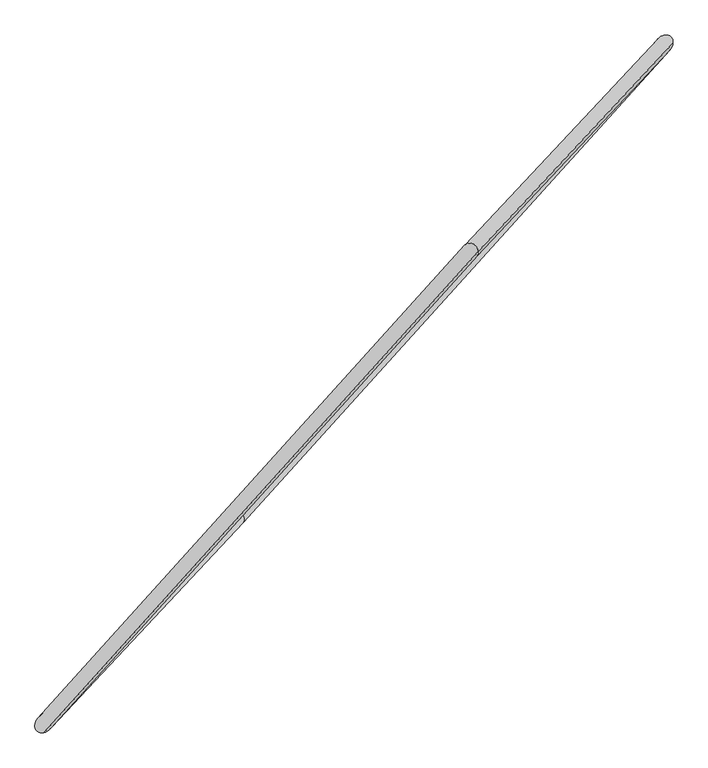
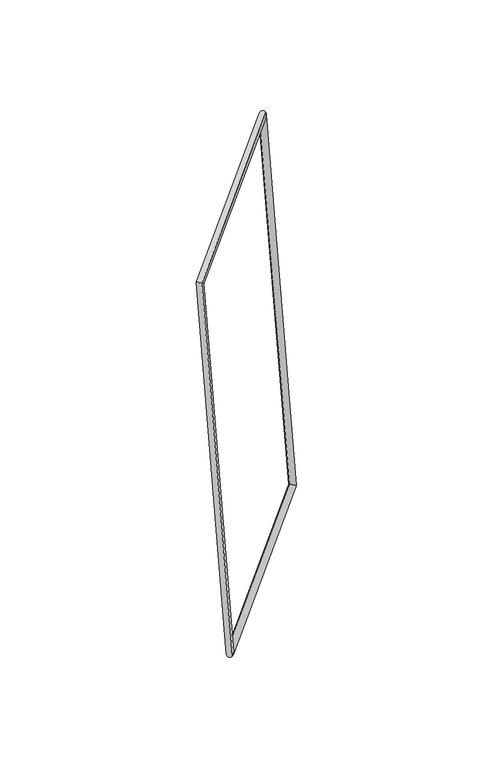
"""IFC4 building model written with IfcOpenShell, lengths in millimetres: proxy geometry, Família5 : Família5."""

from ifc_helpers import new_model, si_unit, frame, origin, place, context, project, spatial, ellipse_curve, source, transform, mapped, element, save
from ifc_brep_helpers import cylinder_surface, advanced_brep


def generic_models_5849164f(model_context):
    return source(origin(), model_context, "Body", "AdvancedBrep", [
        advanced_brep(
        [(-1444.87794, -1499.4701956, 27.9836729), (-1439.727336, -1408.4856457, -27.9836729), (606.4312342, 856.9041999, -27.9836729), (678.1740418, 851.0516414, 27.9836729), (1538.2383753, 1852.5524909, -5608.4495105), (1628.5887726, 1866.5823888, -5663.9204806), (-507.9201949, -412.8373547, -5608.4495105), (-494.4632092, -483.9394482, -5663.9204806)],
        [
            (0, 1, ellipse_curve(frame((-1442.302638, -1453.9779206, 0.0), z_axis=(0.41139046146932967, 0.46054143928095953, 0.7865490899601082), x_axis=(-0.5291992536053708, -0.5819160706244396, 0.6175126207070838)), 64.7753986, 40.0)),
            (1, 2),
            (2, 3, ellipse_curve(frame((642.302638, 853.9779206, 0.0), z_axis=(-0.5291992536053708, -0.5819160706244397, 0.6175126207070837), x_axis=(-0.41139046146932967, -0.4605414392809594, -0.7865490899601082)), 50.8545832, 40.0)),
            (3, 0),
            (1, 0, ellipse_curve(frame((-1442.302638, -1453.9779206, 0.0), z_axis=(0.41139046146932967, 0.46054143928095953, 0.7865490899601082), x_axis=(-0.5291992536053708, -0.5819160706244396, 0.6175126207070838)), 64.7753986, 40.0)),
            (3, 2, ellipse_curve(frame((642.302638, 853.9779206, 0.0), z_axis=(-0.5291992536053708, -0.5819160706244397, 0.6175126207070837), x_axis=(-0.41139046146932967, -0.4605414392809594, -0.7865490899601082)), 50.8545832, 40.0)),
            (2, 4),
            (4, 5, ellipse_curve(frame((1583.413574, 1859.5674399, -5636.1849955), z_axis=(0.41139046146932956, 0.46054143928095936, 0.7865490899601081), x_axis=(-0.5291992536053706, -0.5819160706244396, 0.617512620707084)), 64.7753986, 40.0)),
            (5, 3),
            (5, 4, ellipse_curve(frame((1583.413574, 1859.5674399, -5636.1849955), z_axis=(0.41139046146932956, 0.46054143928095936, 0.7865490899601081), x_axis=(-0.5291992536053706, -0.5819160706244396, 0.617512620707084)), 64.7753986, 40.0)),
            (4, 6),
            (6, 7, ellipse_curve(frame((-501.191702, -448.3884014, -5636.1849955), z_axis=(0.5291992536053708, 0.5819160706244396, -0.6175126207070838), x_axis=(0.41139046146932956, 0.4605414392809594, 0.7865490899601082)), 50.8545832, 40.0)),
            (7, 5),
            (7, 6, ellipse_curve(frame((-501.191702, -448.3884014, -5636.1849955), z_axis=(0.5291992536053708, 0.5819160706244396, -0.6175126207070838), x_axis=(0.41139046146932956, 0.4605414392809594, 0.7865490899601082)), 50.8545832, 40.0)),
            (6, 1),
            (0, 7),
        ],
        [
            cylinder_surface(frame((-1442.302638, -1453.9779206, 0.0), z_axis=(-0.67028625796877, -0.7421026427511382, 0.0), x_axis=(-0.5191689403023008, 0.4689267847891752, 0.7145427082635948)), 40.0),
            cylinder_surface(frame((642.302638, 853.9779206, 0.0), z_axis=(-0.16220390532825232, -0.17331702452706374, 0.9714170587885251), x_axis=(-0.050185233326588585, 0.9846288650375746, 0.16729447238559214)), 40.0),
            cylinder_surface(frame((1583.413574, 1859.5674399, -5636.1849955), z_axis=(0.6702862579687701, 0.7421026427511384, 0.0), x_axis=(-0.514564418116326, 0.46476786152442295, -0.7205652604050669)), 40.0),
            cylinder_surface(frame((-501.191702, -448.3884014, -5636.1849955), z_axis=(0.1622039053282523, 0.17331702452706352, -0.971417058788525), x_axis=(-0.9835481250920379, -0.050934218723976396, -0.17331702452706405)), 40.0),
        ],
        [
            (0, [[1, 2, 3, 4]]),
            (0, [[5, -4, 6, -2]]),
            (1, [[-3, 7, 8, 9]]),
            (1, [[-6, -9, 10, -7]]),
            (2, [[-8, 11, 12, 13]]),
            (2, [[-10, -13, 14, -11]]),
            (3, [[-12, 15, -1, 16]]),
            (3, [[-14, -16, -5, -15]]),
        ],
    ),
    ])


if __name__ == "__main__":
    model = new_model("IFC4")
    model_context = context("Model", 3, world=origin())
    ifc_project = project(units=[si_unit("LENGTHUNIT", "METRE", prefix="MILLI")], contexts=[model_context])
    site = spatial("IfcSite", under=ifc_project)
    building = spatial("IfcBuilding", under=site)
    placement = place(None, origin())
    generic_models_shape = generic_models_5849164f(model_context)
    element("IfcBuildingElementProxy", 1, Name="Família5 : Família5", ObjectType="Família5 : Família5", at=placement, inside=building, context=model_context, shape_type="MappedRepresentation", body=[
        mapped(generic_models_shape, transform((0.0, 0.0, 0.0), x_axis=(1.0, 0.0, 0.0), y_axis=(0.0, 1.0, 0.0), z_axis=(0.0, 0.0, 1.0))),
    ])
    save(model, "model.ifc")
